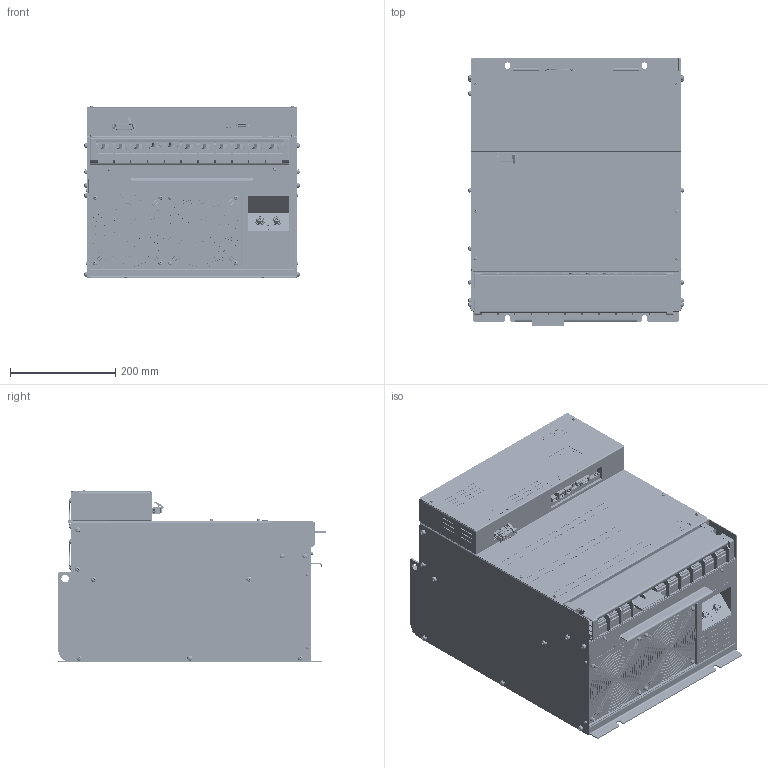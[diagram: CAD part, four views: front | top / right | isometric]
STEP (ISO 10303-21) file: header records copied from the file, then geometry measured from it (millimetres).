
FILE_DESCRIPTION (( 'STEP AP203' ), '1' );
FILE_NAME ('NCR-HD3_553#SE-84821.STEP', '2021-07-08T07:16:06', ( '' ), ( '' ), 'SwSTEP 2.0', 'SolidWorks 2018', '' );
FILE_SCHEMA (( 'CONFIG_CONTROL_DESIGN' ));
Products named in the file (1): NCR-HD3_553#SE-84821
Bounding box: 409.06 x 508 x 327.95 mm (x, y, z)
Volume: 50209539.4 mm3; surface area: 1556261.4 mm2
Topology: 4 solids, 47 shells, 17711 faces, 48709 edges, 31348 vertices
Faces by surface type: plane 11578, cylinder 2738, bspline 1849, cone 1211, torus 245, sphere 90
Entity records: 625093 total; most frequent: CARTESIAN_POINT 181335, ORIENTED_EDGE 97206, DIRECTION 85287, EDGE_CURVE 48603, VECTOR 33287, LINE 33287, VERTEX_POINT 31348, AXIS2_PLACEMENT_3D 26000
